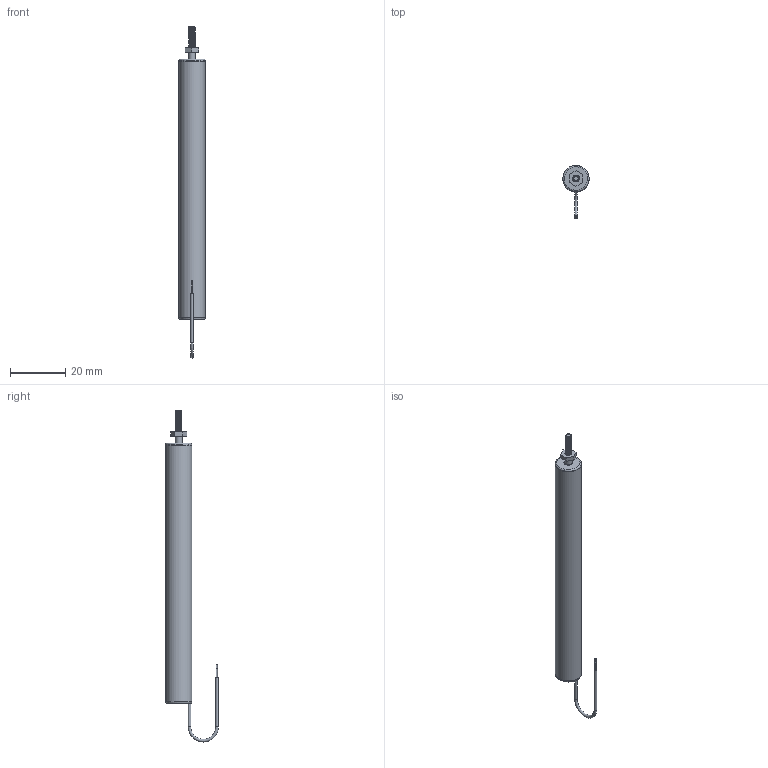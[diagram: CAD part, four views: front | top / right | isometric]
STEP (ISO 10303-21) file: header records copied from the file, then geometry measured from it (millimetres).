
FILE_DESCRIPTION(/* description */ (''),/* implementation_level */ '2;1');
FILE_NAME(/* name */ 'ILPS-9.5Z-050-A-00-YY-S Assembly (wrapped).stp',/* time_stamp */ '2024-06-10T15:17:44-04:00',/* author */ ('Justin'),/* organization */ (''),/* preprocessor_version */ 'ST-DEVELOPER v20',/* originating_system */ 'Autodesk Inventor 2025',/* authorisation */ '');
FILE_SCHEMA (('AUTOMOTIVE_DESIGN { 1 0 10303 214 3 1 1 }'));
Length unit declared in the file: inch
Products named in the file (5): 3020-0020-XX Assembly_SW; 3020-0020-XX Assembly_Simplify_1; 3020-0020-XX Shaft_SW; Wire; BS 4183 - M2.5
Assembly tree (4 placements, depth 2):
  3020-0020-XX Assembly_SW
    3020-0020-XX Assembly_Simplify_1
    3020-0020-XX Shaft_SW
    Wire
    BS 4183 - M2.5
Bounding box: 9.53 x 19.15 x 120.59 mm (x, y, z)
Volume: 850.7 mm3; surface area: 8366.6 mm2
Topology: 7 solids, 7 shells, 70 faces, 145 edges, 94 vertices
Faces by surface type: plane 37, cylinder 23, cone 4, torus 3, bspline 3
Full cylindrical faces by diameter (mm): 0.203 x10, 1 x2, 2.013 x1, 2.438 x1, 2.667 x1, 3.175 x3, 9.398 x1, 9.525 x2
Entity records: 3988 total; most frequent: CARTESIAN_POINT 2140, DIRECTION 367, ORIENTED_EDGE 290, AXIS2_PLACEMENT_3D 158, EDGE_CURVE 145, VERTEX_POINT 94, EDGE_LOOP 85, CIRCLE 82
